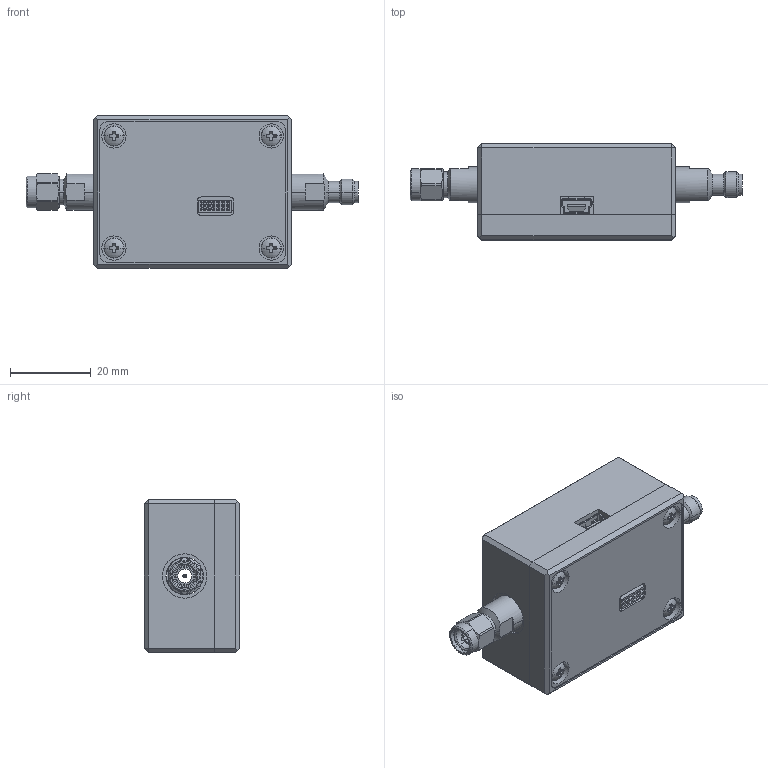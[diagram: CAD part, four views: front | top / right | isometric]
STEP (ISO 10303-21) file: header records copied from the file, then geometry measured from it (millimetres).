
FILE_DESCRIPTION (( 'STEP AP203' ), '1' );
FILE_NAME ('R0383.00.000-02 ACM2509_6000T mod.112.STEP', '2020-06-10T08:43:14', ( '' ), ( '' ), 'SwSTEP 2.0', 'SolidWorks 2014', '' );
FILE_SCHEMA (( 'CONFIG_CONTROL_DESIGN' ));
Length unit declared in the file: millimetre
Products named in the file (1): R0383.00.000-02 ACM2509_6000T mod.112
Bounding box: 82.36 x 23.8 x 37.8 mm (x, y, z)
Surface area: 12733.8 mm2 (no closed solid volume)
Topology: 0 solids, 24 shells, 564 faces, 1787 edges, 1252 vertices
Faces by surface type: plane 363, cone 92, cylinder 89, torus 10, sphere 8, bspline 2
Entity records: 20005 total; most frequent: CARTESIAN_POINT 4539, DIRECTION 3151, ORIENTED_EDGE 2914, EDGE_CURVE 1787, VERTEX_POINT 1252, LINE 1079, VECTOR 1079, AXIS2_PLACEMENT_3D 1036
